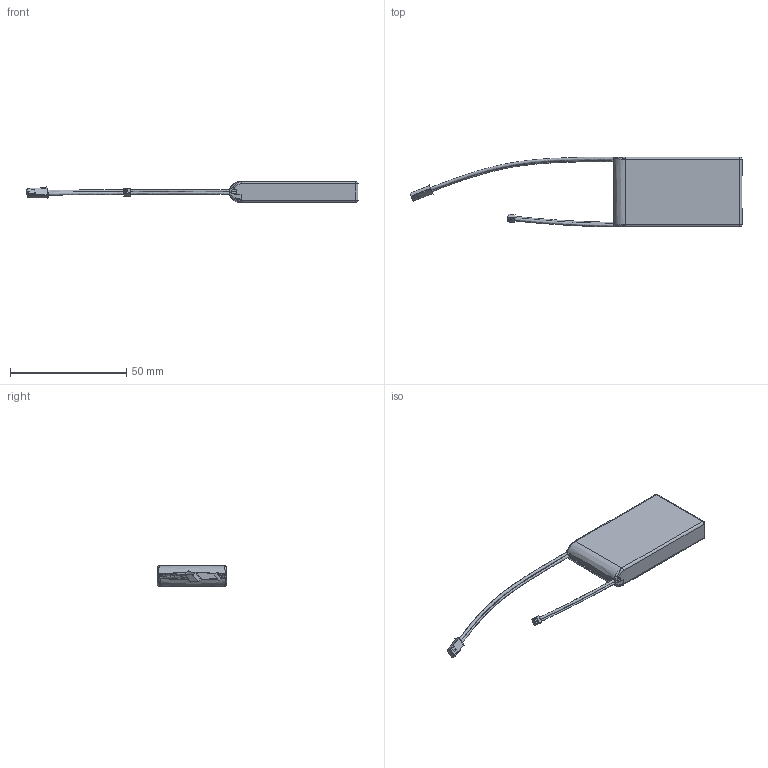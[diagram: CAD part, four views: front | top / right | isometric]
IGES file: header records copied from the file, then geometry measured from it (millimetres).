
Start section: SolidWorks IGES file using analytic representation for surfaces
Global section: file name: C:\Users\Lucas\Documents\Faculdade Puc\Projeto Elevador\SolidWorks\Bateria LiPo 2S 460mAh 20C.IGS; native system: SolidWorks 2013; preprocessor: SolidWorks 2013; author: Lucas; date: 130731.033555; units: millimetre
Bounding box: 142.65 x 30.01 x 9 mm (x, y, z)
Surface area: 5663.7 mm2 (no closed solid volume)
Topology: 0 solids, 0 shells, 174 faces, 1488 edges, 1484 vertices
Faces by surface type: bspline 114, revolution 60
